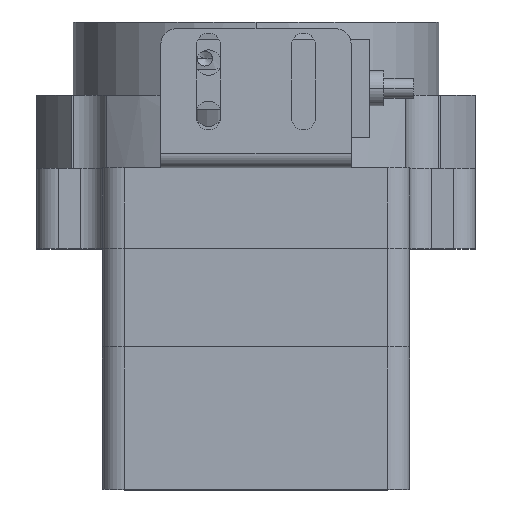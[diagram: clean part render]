
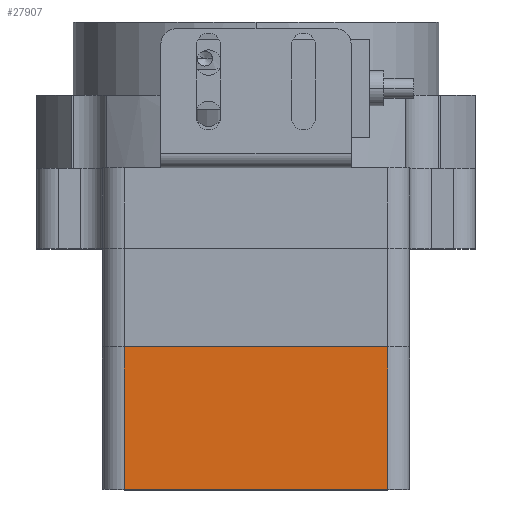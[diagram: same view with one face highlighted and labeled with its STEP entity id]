
A CAD part, top view. The second image highlights one B-rep face of the part: STEP entity #27907.
In plain terms, the highlighted planar face has unit normal (0, 0, 1).
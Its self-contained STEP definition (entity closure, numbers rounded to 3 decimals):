
#25553 = PLANE('',#25554);
#25554 = AXIS2_PLACEMENT_3D('',#25555,#25556,#25557);
#25555 = CARTESIAN_POINT('',(-15.07,-18.51,
    187.696));
#25556 = DIRECTION('',(0.,-1.,-0.));
#25557 = DIRECTION('',(0.,0.,-1.));
#26353 = VERTEX_POINT('',#26354);
#26354 = CARTESIAN_POINT('',(-33.07,-18.51,
    175.096));
#26371 = CYLINDRICAL_SURFACE('',#26372,3.);
#26372 = AXIS2_PLACEMENT_3D('',#26373,#26374,#26375);
#26373 = CARTESIAN_POINT('',(-33.07,-38.01,
    172.096));
#26374 = DIRECTION('',(0.,1.,0.));
#26375 = DIRECTION('',(0.,-0.,1.));
#26383 = EDGE_CURVE('',#26384,#26353,#26386,.T.);
#26384 = VERTEX_POINT('',#26385);
#26385 = CARTESIAN_POINT('',(2.93,-18.51,
    175.096));
#26386 = SURFACE_CURVE('',#26387,(#26391,#26398),.PCURVE_S1.);
#26387 = LINE('',#26388,#26389);
#26388 = CARTESIAN_POINT('',(-15.07,-18.51,
    175.096));
#26389 = VECTOR('',#26390,1.);
#26390 = DIRECTION('',(-1.,0.,-0.));
#26391 = PCURVE('',#25553,#26392);
#26392 = DEFINITIONAL_REPRESENTATION('',(#26393),#26397);
#26393 = LINE('',#26394,#26395);
#26394 = CARTESIAN_POINT('',(12.6,0.));
#26395 = VECTOR('',#26396,1.);
#26396 = DIRECTION('',(0.,-1.));
#26397 = ( GEOMETRIC_REPRESENTATION_CONTEXT(2) 
PARAMETRIC_REPRESENTATION_CONTEXT() REPRESENTATION_CONTEXT('2D SPACE',''
  ) );
#26398 = PCURVE('',#26399,#26404);
#26399 = PLANE('',#26400);
#26400 = AXIS2_PLACEMENT_3D('',#26401,#26402,#26403);
#26401 = CARTESIAN_POINT('',(2.93,-38.01,
    175.096));
#26402 = DIRECTION('',(0.,0.,-1.));
#26403 = DIRECTION('',(-1.,0.,0.));
#26404 = DEFINITIONAL_REPRESENTATION('',(#26405),#26409);
#26405 = LINE('',#26406,#26407);
#26406 = CARTESIAN_POINT('',(18.,19.5));
#26407 = VECTOR('',#26408,1.);
#26408 = DIRECTION('',(1.,0.));
#26409 = ( GEOMETRIC_REPRESENTATION_CONTEXT(2) 
PARAMETRIC_REPRESENTATION_CONTEXT() REPRESENTATION_CONTEXT('2D SPACE',''
  ) );
#26428 = CYLINDRICAL_SURFACE('',#26429,3.);
#26429 = AXIS2_PLACEMENT_3D('',#26430,#26431,#26432);
#26430 = CARTESIAN_POINT('',(2.93,-38.01,
    172.096));
#26431 = DIRECTION('',(0.,1.,0.));
#26432 = DIRECTION('',(0.,-0.,1.));
#27854 = VERTEX_POINT('',#27855);
#27855 = CARTESIAN_POINT('',(-33.07,-38.01,
    175.096));
#27870 = PLANE('',#27871);
#27871 = AXIS2_PLACEMENT_3D('',#27872,#27873,#27874);
#27872 = CARTESIAN_POINT('',(2.93,-38.01,
    172.096));
#27873 = DIRECTION('',(0.,-1.,-0.));
#27874 = DIRECTION('',(0.,0.,-1.));
#27886 = EDGE_CURVE('',#27854,#26353,#27887,.T.);
#27887 = SURFACE_CURVE('',#27888,(#27892,#27899),.PCURVE_S1.);
#27888 = LINE('',#27889,#27890);
#27889 = CARTESIAN_POINT('',(-33.07,-38.01,
    175.096));
#27890 = VECTOR('',#27891,1.);
#27891 = DIRECTION('',(0.,1.,0.));
#27892 = PCURVE('',#26371,#27893);
#27893 = DEFINITIONAL_REPRESENTATION('',(#27894),#27898);
#27894 = LINE('',#27895,#27896);
#27895 = CARTESIAN_POINT('',(6.283,0.));
#27896 = VECTOR('',#27897,1.);
#27897 = DIRECTION('',(0.,1.));
#27898 = ( GEOMETRIC_REPRESENTATION_CONTEXT(2) 
PARAMETRIC_REPRESENTATION_CONTEXT() REPRESENTATION_CONTEXT('2D SPACE',''
  ) );
#27899 = PCURVE('',#26399,#27900);
#27900 = DEFINITIONAL_REPRESENTATION('',(#27901),#27905);
#27901 = LINE('',#27902,#27903);
#27902 = CARTESIAN_POINT('',(36.,0.));
#27903 = VECTOR('',#27904,1.);
#27904 = DIRECTION('',(0.,1.));
#27905 = ( GEOMETRIC_REPRESENTATION_CONTEXT(2) 
PARAMETRIC_REPRESENTATION_CONTEXT() REPRESENTATION_CONTEXT('2D SPACE',''
  ) );
#27907 = ADVANCED_FACE('',(#27908),#26399,.F.);
#27908 = FACE_BOUND('',#27909,.T.);
#27909 = EDGE_LOOP('',(#27910,#27933,#27954,#27955));
#27910 = ORIENTED_EDGE('',*,*,#27911,.F.);
#27911 = EDGE_CURVE('',#27912,#27854,#27914,.T.);
#27912 = VERTEX_POINT('',#27913);
#27913 = CARTESIAN_POINT('',(2.93,-38.01,
    175.096));
#27914 = SURFACE_CURVE('',#27915,(#27919,#27926),.PCURVE_S1.);
#27915 = LINE('',#27916,#27917);
#27916 = CARTESIAN_POINT('',(2.93,-38.01,
    175.096));
#27917 = VECTOR('',#27918,1.);
#27918 = DIRECTION('',(-1.,0.,0.));
#27919 = PCURVE('',#26399,#27920);
#27920 = DEFINITIONAL_REPRESENTATION('',(#27921),#27925);
#27921 = LINE('',#27922,#27923);
#27922 = CARTESIAN_POINT('',(0.,0.));
#27923 = VECTOR('',#27924,1.);
#27924 = DIRECTION('',(1.,0.));
#27925 = ( GEOMETRIC_REPRESENTATION_CONTEXT(2) 
PARAMETRIC_REPRESENTATION_CONTEXT() REPRESENTATION_CONTEXT('2D SPACE',''
  ) );
#27926 = PCURVE('',#27870,#27927);
#27927 = DEFINITIONAL_REPRESENTATION('',(#27928),#27932);
#27928 = LINE('',#27929,#27930);
#27929 = CARTESIAN_POINT('',(-3.,0.));
#27930 = VECTOR('',#27931,1.);
#27931 = DIRECTION('',(0.,-1.));
#27932 = ( GEOMETRIC_REPRESENTATION_CONTEXT(2) 
PARAMETRIC_REPRESENTATION_CONTEXT() REPRESENTATION_CONTEXT('2D SPACE',''
  ) );
#27933 = ORIENTED_EDGE('',*,*,#27934,.F.);
#27934 = EDGE_CURVE('',#26384,#27912,#27935,.T.);
#27935 = SURFACE_CURVE('',#27936,(#27940,#27947),.PCURVE_S1.);
#27936 = LINE('',#27937,#27938);
#27937 = CARTESIAN_POINT('',(2.93,-38.01,
    175.096));
#27938 = VECTOR('',#27939,1.);
#27939 = DIRECTION('',(-0.,-1.,-0.));
#27940 = PCURVE('',#26399,#27941);
#27941 = DEFINITIONAL_REPRESENTATION('',(#27942),#27946);
#27942 = LINE('',#27943,#27944);
#27943 = CARTESIAN_POINT('',(0.,0.));
#27944 = VECTOR('',#27945,1.);
#27945 = DIRECTION('',(0.,-1.));
#27946 = ( GEOMETRIC_REPRESENTATION_CONTEXT(2) 
PARAMETRIC_REPRESENTATION_CONTEXT() REPRESENTATION_CONTEXT('2D SPACE',''
  ) );
#27947 = PCURVE('',#26428,#27948);
#27948 = DEFINITIONAL_REPRESENTATION('',(#27949),#27953);
#27949 = LINE('',#27950,#27951);
#27950 = CARTESIAN_POINT('',(0.,0.));
#27951 = VECTOR('',#27952,1.);
#27952 = DIRECTION('',(0.,-1.));
#27953 = ( GEOMETRIC_REPRESENTATION_CONTEXT(2) 
PARAMETRIC_REPRESENTATION_CONTEXT() REPRESENTATION_CONTEXT('2D SPACE',''
  ) );
#27954 = ORIENTED_EDGE('',*,*,#26383,.T.);
#27955 = ORIENTED_EDGE('',*,*,#27886,.F.);
